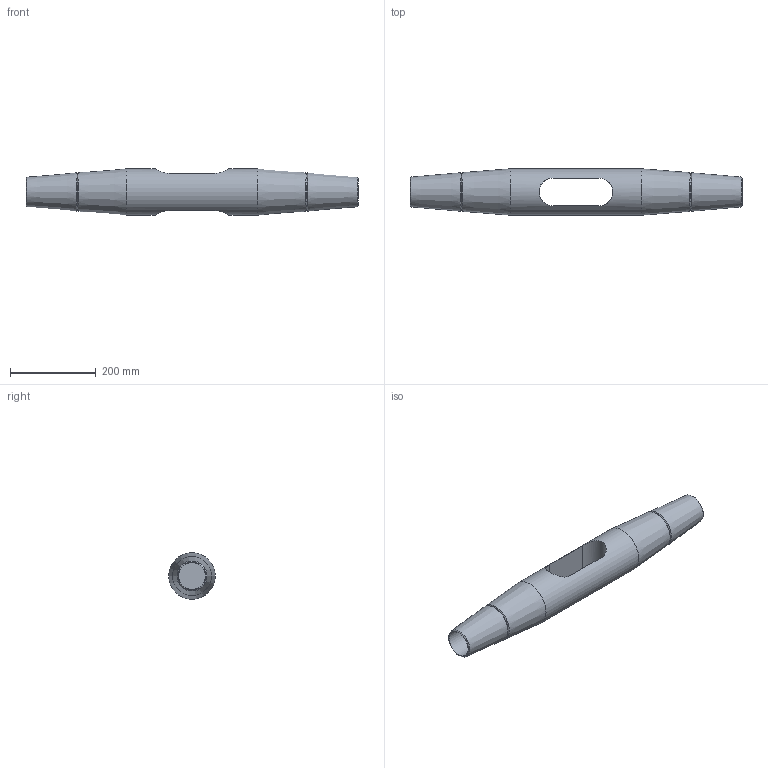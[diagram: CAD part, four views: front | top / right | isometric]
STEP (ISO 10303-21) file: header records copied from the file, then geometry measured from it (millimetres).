
FILE_DESCRIPTION(/* description */ (''),/* implementation_level */ '2;1');
FILE_NAME(/* name */ 'G:\Engineering\700 CAD\Internet-PX-1-step-igs-dxf\520-KMF-Arbeitsdateien\520-060-KMF.stp',/* time_stamp */ '2020-07-02T13:25:23+02:00',/* author */ ('schwarz'),/* organization */ (''),/* preprocessor_version */ 'ST-DEVELOPER v16.1',/* originating_system */ 'Autodesk Inventor 2016',/* authorisation */ '');
FILE_SCHEMA (('AUTOMOTIVE_DESIGN { 1 0 10303 214 3 1 1 }'));
Length unit declared in the file: centimetre
Products named in the file (1): Kreuzmuffen-Set 520 060 Kunde
Bounding box: 773 x 108 x 108 mm (x, y, z)
Volume: 4160186.1 mm3; surface area: 294362.1 mm2
Topology: 1 solids, 1 shells, 21 faces, 41 edges, 24 vertices
Faces by surface type: cone 10, plane 6, cylinder 5
Full cylindrical faces by diameter (mm): 62.5 x2, 108 x1
Entity records: 653 total; most frequent: CARTESIAN_POINT 206, DIRECTION 84, ORIENTED_EDGE 56, EDGE_LOOP 38, AXIS2_PLACEMENT_3D 38, EDGE_CURVE 28, VERTEX_POINT 24, STYLED_ITEM 22
